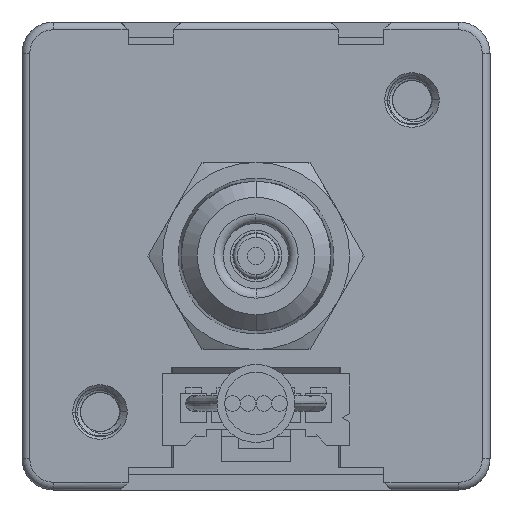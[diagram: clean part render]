
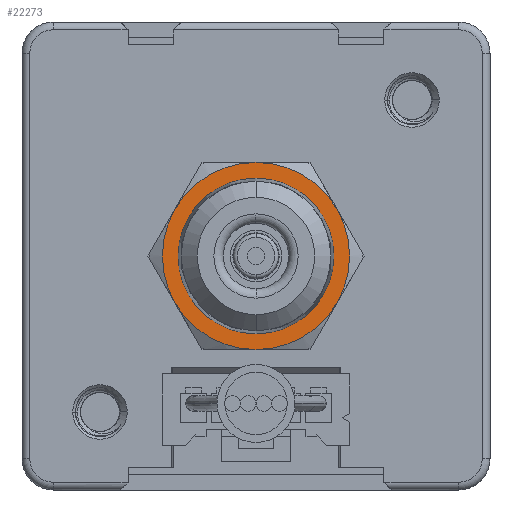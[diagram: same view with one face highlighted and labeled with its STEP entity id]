
A CAD part, front view. The second image highlights one B-rep face of the part: STEP entity #22273.
In plain terms, the highlighted planar face has unit normal (0, -1, 0).
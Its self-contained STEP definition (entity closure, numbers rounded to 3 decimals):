
#7638=CARTESIAN_POINT('',(0.,-6.,0.));
#7639=DIRECTION('',(0.,-1.,0.));
#7640=DIRECTION('',(0.,0.,-1.));
#7641=AXIS2_PLACEMENT_3D('',#7638,#7639,#7640);
#7643=CARTESIAN_POINT('',(0.,-6.,0.));
#7644=DIRECTION('',(0.,-1.,0.));
#7645=DIRECTION('',(-0.866,0.,-0.5));
#7646=AXIS2_PLACEMENT_3D('',#7643,#7644,#7645);
#7648=CARTESIAN_POINT('',(0.,-6.,0.));
#7649=DIRECTION('',(0.,-1.,0.));
#7650=DIRECTION('',(-0.866,0.,0.5));
#7651=AXIS2_PLACEMENT_3D('',#7648,#7649,#7650);
#7653=CARTESIAN_POINT('',(0.,-6.,0.));
#7654=DIRECTION('',(0.,-1.,0.));
#7655=DIRECTION('',(0.,0.,1.));
#7656=AXIS2_PLACEMENT_3D('',#7653,#7654,#7655);
#7658=CARTESIAN_POINT('',(0.,-6.,0.));
#7659=DIRECTION('',(0.,-1.,0.));
#7660=DIRECTION('',(0.866,0.,0.5));
#7661=AXIS2_PLACEMENT_3D('',#7658,#7659,#7660);
#7663=CARTESIAN_POINT('',(0.,-6.,0.));
#7664=DIRECTION('',(0.,-1.,0.));
#7665=DIRECTION('',(0.866,0.,-0.5));
#7666=AXIS2_PLACEMENT_3D('',#7663,#7664,#7665);
#7688=CARTESIAN_POINT('',(0.,-6.,0.));
#7689=DIRECTION('',(0.,-1.,0.));
#7690=DIRECTION('',(0.,0.,-1.));
#7691=AXIS2_PLACEMENT_3D('',#7688,#7689,#7690);
#7730=CARTESIAN_POINT('',(0.,-6.,0.));
#7731=DIRECTION('',(0.,1.,0.));
#7732=DIRECTION('',(0.,0.,-1.));
#7733=AXIS2_PLACEMENT_3D('',#7730,#7731,#7732);
#11570=CARTESIAN_POINT('',(0.,-6.,-4.993));
#11571=CARTESIAN_POINT('',(0.,-6.,4.993));
#11572=VERTEX_POINT('',#11570);
#11573=VERTEX_POINT('',#11571);
#11582=CARTESIAN_POINT('',(0.,-6.,-6.));
#11583=CARTESIAN_POINT('',(5.196,-6.,-3.));
#11584=VERTEX_POINT('',#11582);
#11585=VERTEX_POINT('',#11583);
#11586=CARTESIAN_POINT('',(5.196,-6.,3.));
#11587=VERTEX_POINT('',#11586);
#11588=CARTESIAN_POINT('',(0.,-6.,6.));
#11589=VERTEX_POINT('',#11588);
#11590=CARTESIAN_POINT('',(-5.196,-6.,3.));
#11591=VERTEX_POINT('',#11590);
#11592=CARTESIAN_POINT('',(-5.196,-6.,-3.));
#11593=VERTEX_POINT('',#11592);
#22249=CARTESIAN_POINT('',(0.,-6.,0.));
#22250=DIRECTION('',(0.,-1.,0.));
#22251=DIRECTION('',(0.,0.,1.));
#22252=AXIS2_PLACEMENT_3D('',#22249,#22250,#22251);
#22253=PLANE('',#22252);
#22255=ORIENTED_EDGE('',*,*,#22254,.F.);
#22257=ORIENTED_EDGE('',*,*,#22256,.F.);
#22259=ORIENTED_EDGE('',*,*,#22258,.F.);
#22260=ORIENTED_EDGE('',*,*,#22243,.F.);
#22262=ORIENTED_EDGE('',*,*,#22261,.F.);
#22264=ORIENTED_EDGE('',*,*,#22263,.F.);
#22265=EDGE_LOOP('',(#22255,#22257,#22259,#22260,#22262,#22264));
#22266=FACE_OUTER_BOUND('',#22265,.F.);
#22268=ORIENTED_EDGE('',*,*,#22267,.T.);
#22270=ORIENTED_EDGE('',*,*,#22269,.F.);
#22271=EDGE_LOOP('',(#22268,#22270));
#22272=FACE_BOUND('',#22271,.F.);
#22273=ADVANCED_FACE('',(#22266,#22272),#22253,.T.);
#7642=CIRCLE('',#7641,6.);
#7647=CIRCLE('',#7646,6.);
#7652=CIRCLE('',#7651,6.);
#7657=CIRCLE('',#7656,6.);
#7662=CIRCLE('',#7661,6.);
#7667=CIRCLE('',#7666,6.);
#7692=CIRCLE('',#7691,4.993);
#7734=CIRCLE('',#7733,4.993);
#22243=EDGE_CURVE('',#11589,#11591,#7657,.T.);
#22254=EDGE_CURVE('',#11584,#11585,#7642,.T.);
#22256=EDGE_CURVE('',#11593,#11584,#7647,.T.);
#22258=EDGE_CURVE('',#11591,#11593,#7652,.T.);
#22261=EDGE_CURVE('',#11587,#11589,#7662,.T.);
#22263=EDGE_CURVE('',#11585,#11587,#7667,.T.);
#22267=EDGE_CURVE('',#11572,#11573,#7692,.T.);
#22269=EDGE_CURVE('',#11572,#11573,#7734,.T.);
